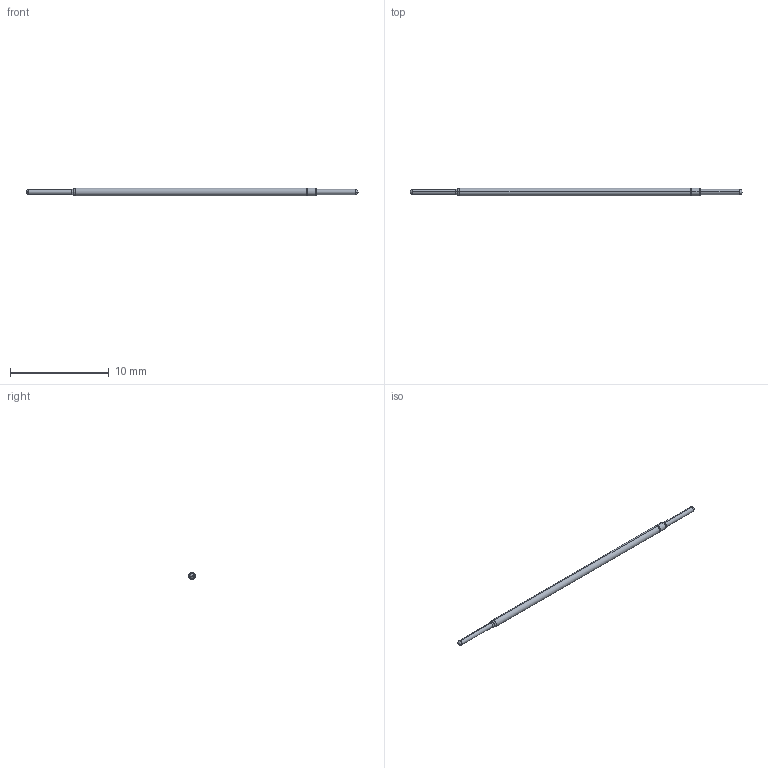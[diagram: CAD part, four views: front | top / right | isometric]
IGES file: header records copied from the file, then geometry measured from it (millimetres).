
Start section: SolidWorks IGES file using analytic representation for surfaces
Global section: file name: C:\Documents and Settings\mrumschlag\Desktop\changes\new\test\J RECD.IGS; native system: SolidWorks 2011; preprocessor: SolidWorks 2011; author: mrumschlag; date: 110630.142726; units: inch
Bounding box: 33.69 x 0.76 x 0.76 mm (x, y, z)
Surface area: 74 mm2 (no closed solid volume)
Topology: 0 solids, 0 shells, 25 faces, 136 edges, 132 vertices
Faces by surface type: revolution 16, bspline 9
